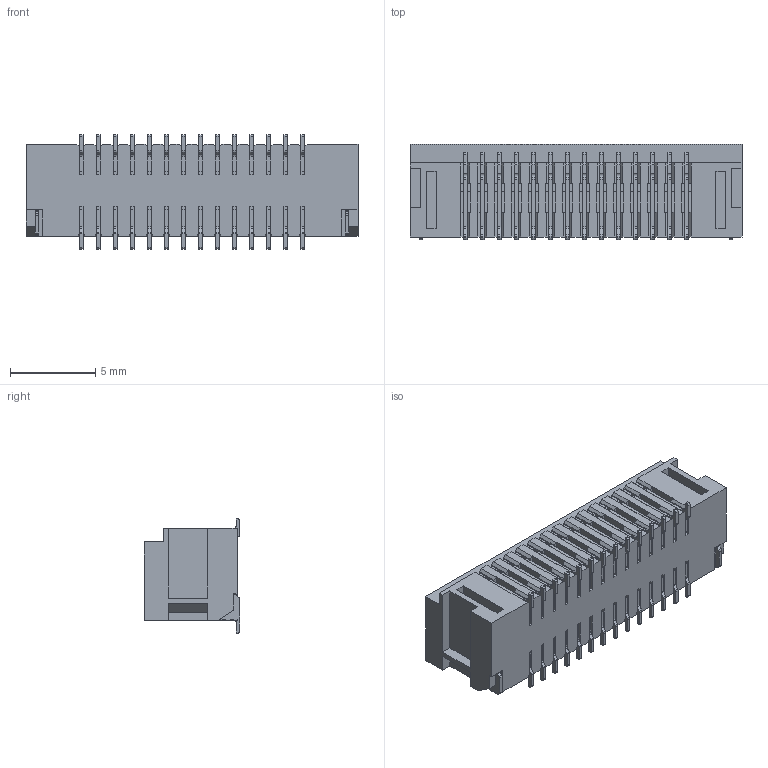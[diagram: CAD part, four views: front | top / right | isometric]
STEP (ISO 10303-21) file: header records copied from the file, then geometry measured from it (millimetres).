
FILE_DESCRIPTION(/* description */ (''),/* implementation_level */ '2;1');
FILE_NAME(/* name */ 'HC-SH25-2x14PWT-05 _1.00 双排 带扣 卧贴-HCTL__step.stp',/* time_stamp */ '2026-10-21T10:44:05+08:00',/* author */ (''),/* organization */ (''),/* preprocessor_version */ 'ST-DEVELOPER v16',/* originating_system */ 'SIEMENS PLM Software NX 10.0',/* authorisation */ '');
FILE_SCHEMA (('AUTOMOTIVE_DESIGN { 1 0 10303 214 3 1 1 1 }'));
Products named in the file (1): HC-SH25-2x10PWT-05 _1.00  双排 带扣 
卧贴-HCTL__step
Bounding box: 19.5 x 5.6 x 6.7 mm (x, y, z)
Volume: 380.8 mm3; surface area: 1607.6 mm2
Topology: 3 solids, 3 shells, 2725 faces, 8258 edges, 5444 vertices
Faces by surface type: plane 1951, cylinder 774
Entity records: 92202 total; most frequent: ORIENTED_EDGE 16516, CARTESIAN_POINT 16488, DIRECTION 15238, EDGE_CURVE 8258, LINE 6690, VECTOR 6690, VERTEX_POINT 5444, AXIS2_PLACEMENT_3D 4274
